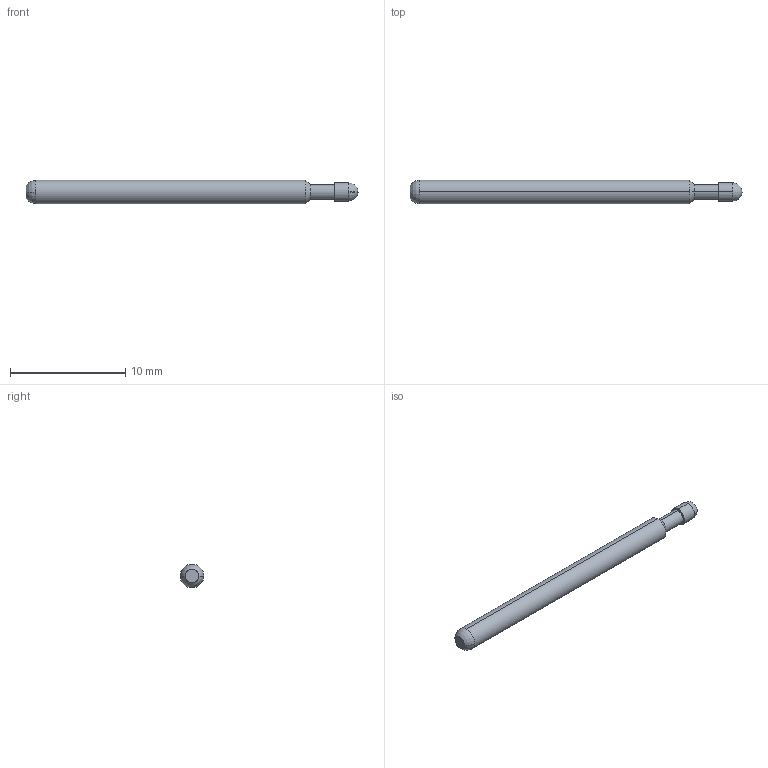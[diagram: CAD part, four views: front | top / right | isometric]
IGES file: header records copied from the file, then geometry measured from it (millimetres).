
Start section: SolidWorks IGES file using analytic representation for surfaces
Global section: file name: C:\Documents and Settings\mrumschlag\Desktop\changes\new\test\EPA-3D RECD.IGS; native system: SolidWorks 2008; preprocessor: SolidWorks 2008; author: mrumschlag; date: 110414.162811; units: inch
Bounding box: 28.78 x 2.03 x 2.03 mm (x, y, z)
Surface area: 177.8 mm2 (no closed solid volume)
Topology: 0 solids, 0 shells, 14 faces, 104 edges, 102 vertices
Faces by surface type: revolution 12, bspline 2
